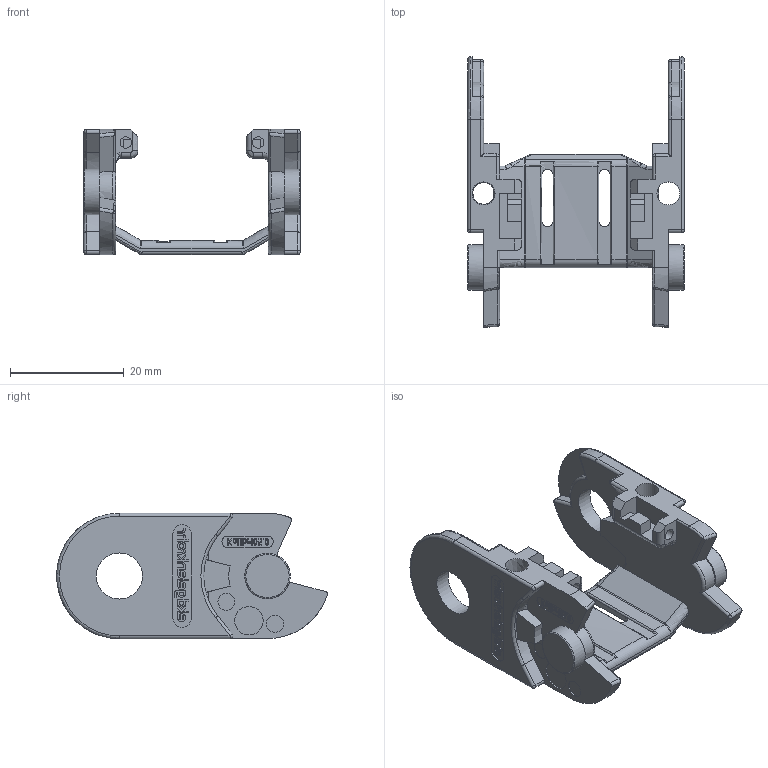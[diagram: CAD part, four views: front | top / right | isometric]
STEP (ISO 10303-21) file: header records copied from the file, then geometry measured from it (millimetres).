
FILE_DESCRIPTION((''),'2;1');
FILE_NAME('C:\Uebbing\PARAMETERKETTEN\KOLIBRI\Kol_22_038_0\Kol_22_038_0_Lasche.stp','2011-11-02T11:16:20',('Uebbing'),(''),'Autodesk Inventor 10','Autodesk Inventor 10','');
FILE_SCHEMA(('AUTOMOTIVE_DESIGN { 1 0 10303 214 1 1 1 1 }'));
Length unit declared in the file: millimetre
Products named in the file (1): Kol_22_038_0_Lasche
Bounding box: 38 x 47.5 x 22 mm (x, y, z)
Volume: 6544.1 mm3; surface area: 6782.2 mm2
Topology: 1 solids, 1 shells, 978 faces, 2573 edges, 1661 vertices
Faces by surface type: bspline 616, plane 237, cylinder 95, torus 19, sphere 9, cone 2
Full cylindrical faces by diameter (mm): 0.804 x1, 1.412 x1, 2 x2, 3 x2, 4 x1, 5 x1, 8 x1, 8.1 x1
Entity records: 35181 total; most frequent: CARTESIAN_POINT 13831, ORIENTED_EDGE 5066, DIRECTION 3171, EDGE_CURVE 2533, VERTEX_POINT 1658, VECTOR 1521, LINE 1521, EDGE_LOOP 1097
